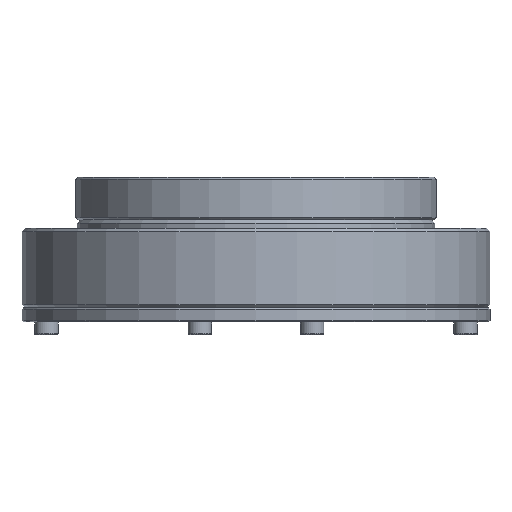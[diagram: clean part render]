
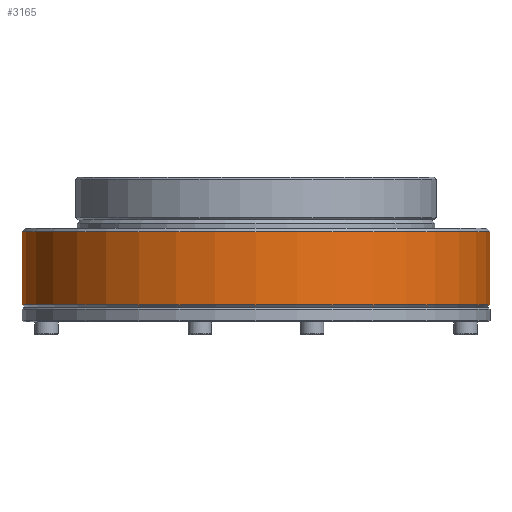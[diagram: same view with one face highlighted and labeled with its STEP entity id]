
A CAD part, front view. The second image highlights one B-rep face of the part: STEP entity #3165.
In plain terms, the highlighted cylindrical face has radius 55 mm (diameter 110 mm), a full revolution.
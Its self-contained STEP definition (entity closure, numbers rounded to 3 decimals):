
#2414=CYLINDRICAL_SURFACE('',#11201,55.);
#3165=ADVANCED_FACE('',(#4307,#4308),#2414,.T.);
#4307=FACE_BOUND('',#5308,.T.);
#4308=FACE_BOUND('',#5309,.T.);
#5308=EDGE_LOOP('',(#6484));
#5309=EDGE_LOOP('',(#6485));
#6484=ORIENTED_EDGE('',*,*,#9108,.F.);
#6485=ORIENTED_EDGE('',*,*,#9107,.T.);
#8242=VERTEX_POINT('',#16029);
#8243=VERTEX_POINT('',#16032);
#9107=EDGE_CURVE('',#8242,#8242,#10143,.T.);
#9108=EDGE_CURVE('',#8243,#8243,#10144,.T.);
#10143=CIRCLE('',#11198,55.);
#10144=CIRCLE('',#11200,55.);
#11198=AXIS2_PLACEMENT_3D('',#16028,#13273,#13274);
#11200=AXIS2_PLACEMENT_3D('',#16031,#13277,#13278);
#11201=AXIS2_PLACEMENT_3D('',#16033,#13279,#13280);
#13273=DIRECTION('',(0.,0.,-1.));
#13274=DIRECTION('',(-1.,0.,0.));
#13277=DIRECTION('',(0.,0.,-1.));
#13278=DIRECTION('',(-1.,0.,0.));
#13279=DIRECTION('',(0.,0.,-1.));
#13280=DIRECTION('',(-1.,0.,0.));
#16028=CARTESIAN_POINT('',(0.,0.,17.9));
#16029=CARTESIAN_POINT('',(-55.,0.,17.9));
#16031=CARTESIAN_POINT('',(0.,0.,0.8));
#16032=CARTESIAN_POINT('',(-55.,0.,0.8));
#16033=CARTESIAN_POINT('',(0.,0.,0.));
